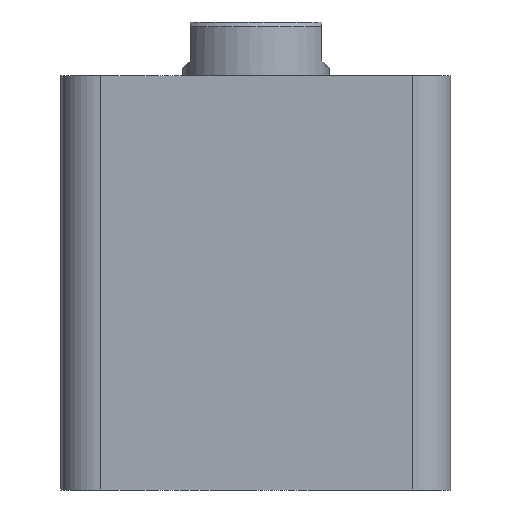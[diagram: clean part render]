
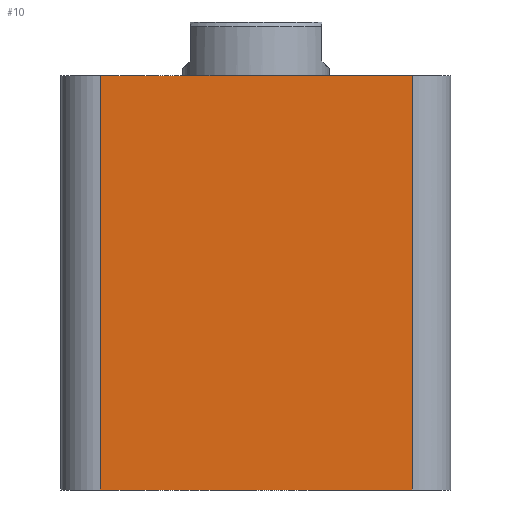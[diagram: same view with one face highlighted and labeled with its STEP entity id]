
A CAD part, front view. The second image highlights one B-rep face of the part: STEP entity #10.
In plain terms, the highlighted planar face has unit normal (0, -1, 0).
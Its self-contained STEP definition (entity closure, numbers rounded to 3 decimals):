
#10 = ADVANCED_FACE ( 'NONE', ( #392 ), #1797, .F. ) ;
#71 = AXIS2_PLACEMENT_3D ( 'NONE', #1682, #1680, #1677 ) ;
#172 = EDGE_CURVE ( 'NONE', #201, #476, #1859, .T. ) ;
#184 = EDGE_CURVE ( 'NONE', #438, #478, #1874, .T. ) ;
#185 = EDGE_CURVE ( 'NONE', #478, #476, #1872, .T. ) ;
#192 = EDGE_CURVE ( 'NONE', #201, #438, #1882, .T. ) ;
#201 = VERTEX_POINT ( 'NONE', #2138 ) ;
#205 = ORIENTED_EDGE ( 'NONE', *, *, #192, .T. ) ;
#372 = EDGE_LOOP ( 'NONE', ( #500, #205, #409, #468 ) ) ;
#392 = FACE_OUTER_BOUND ( 'NONE', #372, .T. ) ;
#409 = ORIENTED_EDGE ( 'NONE', *, *, #184, .T. ) ;
#438 = VERTEX_POINT ( 'NONE', #2114 ) ;
#468 = ORIENTED_EDGE ( 'NONE', *, *, #185, .T. ) ;
#476 = VERTEX_POINT ( 'NONE', #2102 ) ;
#478 = VERTEX_POINT ( 'NONE', #2101 ) ;
#500 = ORIENTED_EDGE ( 'NONE', *, *, #172, .F. ) ;
#1677 = DIRECTION ( 'NONE',  ( 0., 0., 1. ) ) ;
#1680 = DIRECTION ( 'NONE',  ( 0., 1., 0. ) ) ;
#1682 = CARTESIAN_POINT ( 'NONE',  ( -40., -40., 85. ) ) ;
#1797 = PLANE ( 'NONE',  #71 ) ;
#1859 = LINE ( 'NONE', #2261, #1869 ) ;
#1869 = VECTOR ( 'NONE', #2225, 1000. ) ;
#1872 = LINE ( 'NONE', #2191, #1924 ) ;
#1873 = VECTOR ( 'NONE', #2179, 1000. ) ;
#1874 = LINE ( 'NONE', #2181, #1873 ) ;
#1882 = LINE ( 'NONE', #2154, #1886 ) ;
#1886 = VECTOR ( 'NONE', #2153, 1000. ) ;
#1924 = VECTOR ( 'NONE', #2178, 1000. ) ;
#2101 = CARTESIAN_POINT ( 'NONE',  ( 32., -40., 0. ) ) ;
#2102 = CARTESIAN_POINT ( 'NONE',  ( 32., -40., 85. ) ) ;
#2114 = CARTESIAN_POINT ( 'NONE',  ( -32., -40., 0. ) ) ;
#2138 = CARTESIAN_POINT ( 'NONE',  ( -32., -40., 85. ) ) ;
#2153 = DIRECTION ( 'NONE',  ( 0., 0., -1. ) ) ;
#2154 = CARTESIAN_POINT ( 'NONE',  ( -32., -40., 85. ) ) ;
#2178 = DIRECTION ( 'NONE',  ( 0., 0., 1. ) ) ;
#2179 = DIRECTION ( 'NONE',  ( 1., 0., 0. ) ) ;
#2181 = CARTESIAN_POINT ( 'NONE',  ( -40., -40., 0. ) ) ;
#2191 = CARTESIAN_POINT ( 'NONE',  ( 32., -40., 85. ) ) ;
#2225 = DIRECTION ( 'NONE',  ( 1., 0., 0. ) ) ;
#2261 = CARTESIAN_POINT ( 'NONE',  ( -40., -40., 85. ) ) ;
